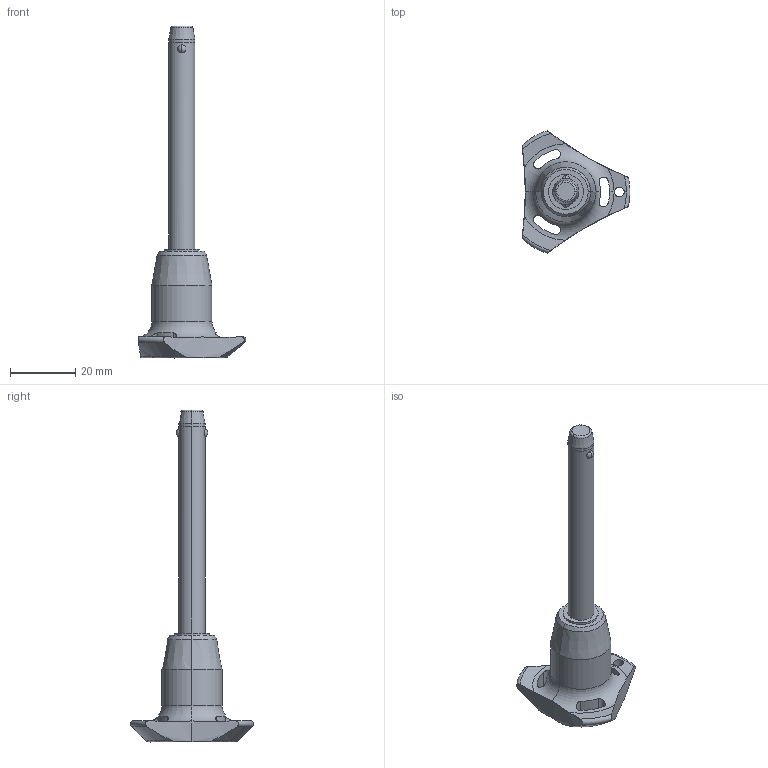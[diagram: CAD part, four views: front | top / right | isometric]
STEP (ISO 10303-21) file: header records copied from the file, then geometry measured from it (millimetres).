
FILE_DESCRIPTION (( 'STEP AP203' ), '1' );
FILE_NAME ('QR1736.M08-060-T.step', '2025-11-13T11:55:51', ( '' ), ( '' ), 'SwSTEP 2.0', 'SolidWorks 2019', '' );
FILE_SCHEMA (( 'CONFIG_CONTROL_DESIGN' ));
Length unit declared in the file: millimetre
Products named in the file (1): QR1736.M08-060-T
Bounding box: 33 x 37.51 x 101.5 mm (x, y, z)
Volume: 12993.7 mm3; surface area: 5491.9 mm2
Topology: 1 solids, 1 shells, 68 faces, 180 edges, 113 vertices
Faces by surface type: cylinder 32, cone 14, torus 11, sphere 6, plane 5
Entity records: 2811 total; most frequent: CARTESIAN_POINT 1071, ORIENTED_EDGE 360, DIRECTION 347, EDGE_CURVE 180, AXIS2_PLACEMENT_3D 154, VERTEX_POINT 113, CIRCLE 85, EDGE_LOOP 75
